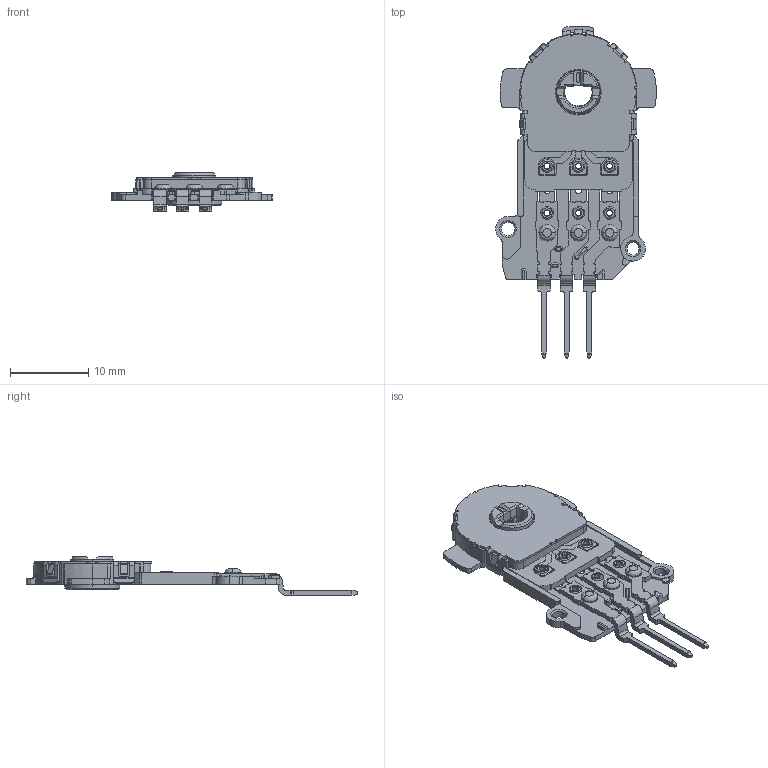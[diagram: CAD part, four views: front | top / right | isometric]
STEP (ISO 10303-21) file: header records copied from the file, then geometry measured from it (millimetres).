
FILE_DESCRIPTION (( 'STEP AP214' ), '1' );
FILE_NAME ('RD6R1A0008.STEP', '2025-09-22T05:35:27', ( '' ), ( '' ), 'SwSTEP 2.0', 'SolidWorks 2024', '' );
FILE_SCHEMA (( 'AUTOMOTIVE_DESIGN' ));
Length unit declared in the file: millimetre
Products named in the file (8): RD6R1A0008_2; RD6R1A0008_4; RD6R1A0008; RD6R1A0008_6; RD6R1A0008_1; RD6R1A0008_3; RD6R1A0008_5
Assembly tree (7 placements, depth 2):
  RD6R1A0008
    RD6R1A0008_3
    RD6R1A0008_4
    RD6R1A0008_6
    RD6R1A0008_5
    RD6R1A0008
    RD6R1A0008_2
    RD6R1A0008_1
Bounding box: 20.6 x 42.49 x 4.91 mm (x, y, z)
Volume: 879.9 mm3; surface area: 1645.4 mm2
Topology: 7 solids, 7 shells, 1037 faces, 2893 edges, 1874 vertices
Faces by surface type: plane 520, cylinder 422, bspline 63, cone 32
Entity records: 41048 total; most frequent: CARTESIAN_POINT 8499, ORIENTED_EDGE 5786, DIRECTION 5452, EDGE_CURVE 2893, VERTEX_POINT 1874, AXIS2_PLACEMENT_3D 1821, VECTOR 1810, LINE 1810
